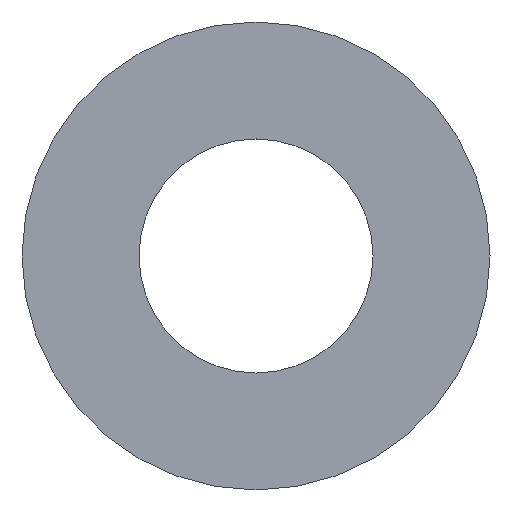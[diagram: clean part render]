
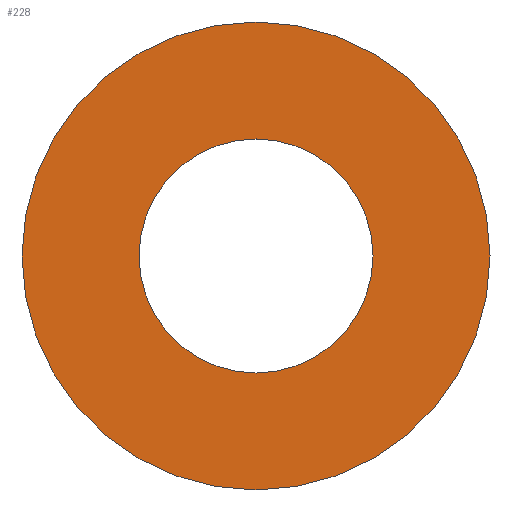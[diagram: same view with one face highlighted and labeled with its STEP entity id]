
A CAD part, left-side view. The second image highlights one B-rep face of the part: STEP entity #228.
In plain terms, the highlighted planar face has unit normal (-1, 0, 0) as drawn and (1, 0, 0) by its records, which use the part's own axes.
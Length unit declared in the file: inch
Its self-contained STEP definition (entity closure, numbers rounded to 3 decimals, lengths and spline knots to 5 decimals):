
#12 = ORIENTED_EDGE ( 'NONE', *, *, #92, .T. ) ;
#14 = CARTESIAN_POINT ( 'NONE',  ( 4., 0., 0.5 ) ) ;
#18 = CIRCLE ( 'NONE', #323, 0.5 ) ;
#19 = AXIS2_PLACEMENT_3D ( 'NONE', #244, #176, #350 ) ;
#31 = CARTESIAN_POINT ( 'NONE',  ( 4., 0., 0. ) ) ;
#40 = ORIENTED_EDGE ( 'NONE', *, *, #303, .T. ) ;
#48 = ORIENTED_EDGE ( 'NONE', *, *, #136, .T. ) ;
#56 = DIRECTION ( 'NONE',  ( 1., 0., 0. ) ) ;
#62 = ORIENTED_EDGE ( 'NONE', *, *, #214, .T. ) ;
#67 = DIRECTION ( 'NONE',  ( 0., 0., -1. ) ) ;
#92 = EDGE_CURVE ( 'NONE', #153, #151, #320, .T. ) ;
#93 = CARTESIAN_POINT ( 'NONE',  ( 4., 0., -0.25 ) ) ;
#98 = CARTESIAN_POINT ( 'NONE',  ( 4., 0., 0. ) ) ;
#107 = VERTEX_POINT ( 'NONE', #14 ) ;
#112 = AXIS2_PLACEMENT_3D ( 'NONE', #31, #56, #269 ) ;
#123 = DIRECTION ( 'NONE',  ( 1., 0., 0. ) ) ;
#136 = EDGE_CURVE ( 'NONE', #151, #153, #149, .T. ) ;
#143 = CARTESIAN_POINT ( 'NONE',  ( 4., 0., 0.25 ) ) ;
#146 = FACE_BOUND ( 'NONE', #376, .T. ) ;
#149 = CIRCLE ( 'NONE', #19, 0.25 ) ;
#151 = VERTEX_POINT ( 'NONE', #93 ) ;
#153 = VERTEX_POINT ( 'NONE', #143 ) ;
#154 = CARTESIAN_POINT ( 'NONE',  ( 4., 0., 0. ) ) ;
#175 = CARTESIAN_POINT ( 'NONE',  ( 4., 0., -0.5 ) ) ;
#176 = DIRECTION ( 'NONE',  ( -1., 0., 0. ) ) ;
#201 = AXIS2_PLACEMENT_3D ( 'NONE', #223, #272, #273 ) ;
#214 = EDGE_CURVE ( 'NONE', #312, #107, #18, .T. ) ;
#223 = CARTESIAN_POINT ( 'NONE',  ( 4., 0., -0.5 ) ) ;
#224 = DIRECTION ( 'NONE',  ( 0., 0., -1. ) ) ;
#228 = ADVANCED_FACE ( 'NONE', ( #146, #231 ), #270, .T. ) ;
#231 = FACE_OUTER_BOUND ( 'NONE', #293, .T. ) ;
#244 = CARTESIAN_POINT ( 'NONE',  ( 4., 0., 0. ) ) ;
#245 = AXIS2_PLACEMENT_3D ( 'NONE', #98, #252, #67 ) ;
#252 = DIRECTION ( 'NONE',  ( -1., 0., 0. ) ) ;
#269 = DIRECTION ( 'NONE',  ( 0., 0., -1. ) ) ;
#270 = PLANE ( 'NONE',  #201 ) ;
#272 = DIRECTION ( 'NONE',  ( 1., 0., 0. ) ) ;
#273 = DIRECTION ( 'NONE',  ( 0., 0., -1. ) ) ;
#293 = EDGE_LOOP ( 'NONE', ( #62, #40 ) ) ;
#303 = EDGE_CURVE ( 'NONE', #107, #312, #311, .T. ) ;
#311 = CIRCLE ( 'NONE', #112, 0.5 ) ;
#312 = VERTEX_POINT ( 'NONE', #175 ) ;
#320 = CIRCLE ( 'NONE', #245, 0.25 ) ;
#323 = AXIS2_PLACEMENT_3D ( 'NONE', #154, #123, #224 ) ;
#350 = DIRECTION ( 'NONE',  ( 0., 0., -1. ) ) ;
#376 = EDGE_LOOP ( 'NONE', ( #12, #48 ) ) ;
